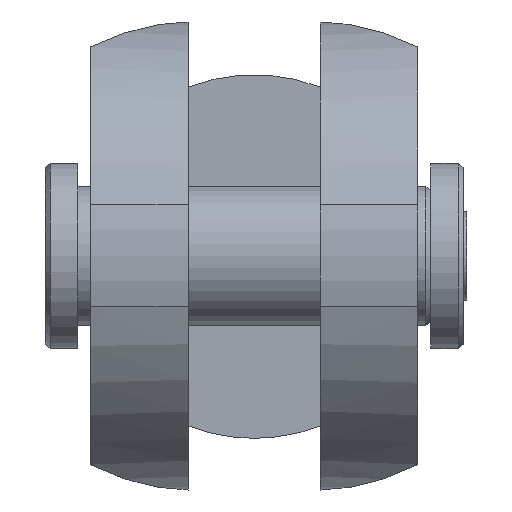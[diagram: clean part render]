
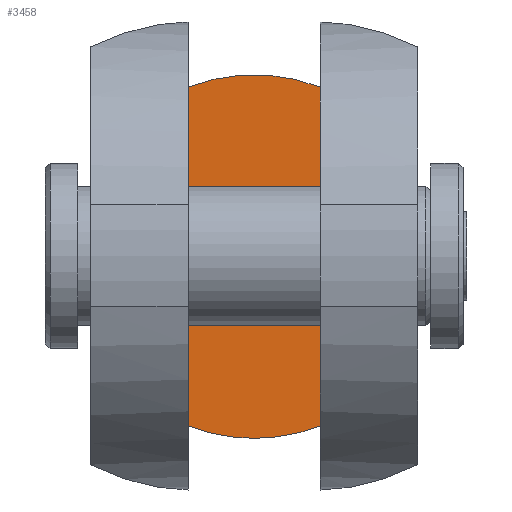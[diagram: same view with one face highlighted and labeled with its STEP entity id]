
A CAD part, top view. The second image highlights one B-rep face of the part: STEP entity #3458.
In plain terms, the highlighted planar face has unit normal (0, 0, 1).
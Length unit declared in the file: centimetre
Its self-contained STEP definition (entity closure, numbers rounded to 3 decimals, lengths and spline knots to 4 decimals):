
#151=PLANE('',#3647);
#502=LINE('',#5619,#850);
#503=LINE('',#5621,#851);
#850=VECTOR('',#4341,7.3);
#851=VECTOR('',#4344,7.3);
#1137=FACE_OUTER_BOUND('',#1343,.T.);
#1343=EDGE_LOOP('',(#3011,#3012,#3013,#3014));
#1405=CIRCLE('',#3502,3.9183);
#1406=CIRCLE('',#3503,3.9183);
#1452=VERTEX_POINT('',#4498);
#1453=VERTEX_POINT('',#4502);
#1458=VERTEX_POINT('',#4534);
#1459=VERTEX_POINT('',#4538);
#1762=EDGE_CURVE('',#1452,#1453,#1405,.T.);
#1768=EDGE_CURVE('',#1458,#1459,#1406,.T.);
#2163=EDGE_CURVE('',#1459,#1452,#502,.T.);
#2164=EDGE_CURVE('',#1458,#1453,#503,.T.);
#3011=ORIENTED_EDGE('',*,*,#1768,.F.);
#3012=ORIENTED_EDGE('',*,*,#2164,.T.);
#3013=ORIENTED_EDGE('',*,*,#1762,.F.);
#3014=ORIENTED_EDGE('',*,*,#2163,.F.);
#3458=ADVANCED_FACE('',(#1137),#151,.F.);
#3502=AXIS2_PLACEMENT_3D('',#4503,#3717,#3718);
#3503=AXIS2_PLACEMENT_3D('',#4539,#3719,#3720);
#3647=AXIS2_PLACEMENT_3D('',#5620,#4342,#4343);
#3717=DIRECTION('center_axis',(0.,0.,
-1.));
#3718=DIRECTION('ref_axis',(0.,-1.,0.));
#3719=DIRECTION('center_axis',(0.,0.,
-1.));
#3720=DIRECTION('ref_axis',(0.,-1.,0.));
#4341=DIRECTION('',(0.,1.,0.));
#4342=DIRECTION('center_axis',(0.,0.,
-1.));
#4343=DIRECTION('ref_axis',(-1.,0.,0.));
#4344=DIRECTION('',(0.,1.,0.));
#4498=CARTESIAN_POINT('',(-1.425,3.65,-6.5));
#4502=CARTESIAN_POINT('',(1.425,3.65,-6.5));
#4503=CARTESIAN_POINT('Origin',(0.,0.,
-6.5));
#4534=CARTESIAN_POINT('',(1.425,-3.65,-6.5));
#4538=CARTESIAN_POINT('',(-1.425,-3.65,-6.5));
#4539=CARTESIAN_POINT('Origin',(0.,0.,
-6.5));
#5619=CARTESIAN_POINT('',(-1.425,0.,-6.5));
#5620=CARTESIAN_POINT('Origin',(1.425,0.,-6.5));
#5621=CARTESIAN_POINT('',(1.425,0.,-6.5));
